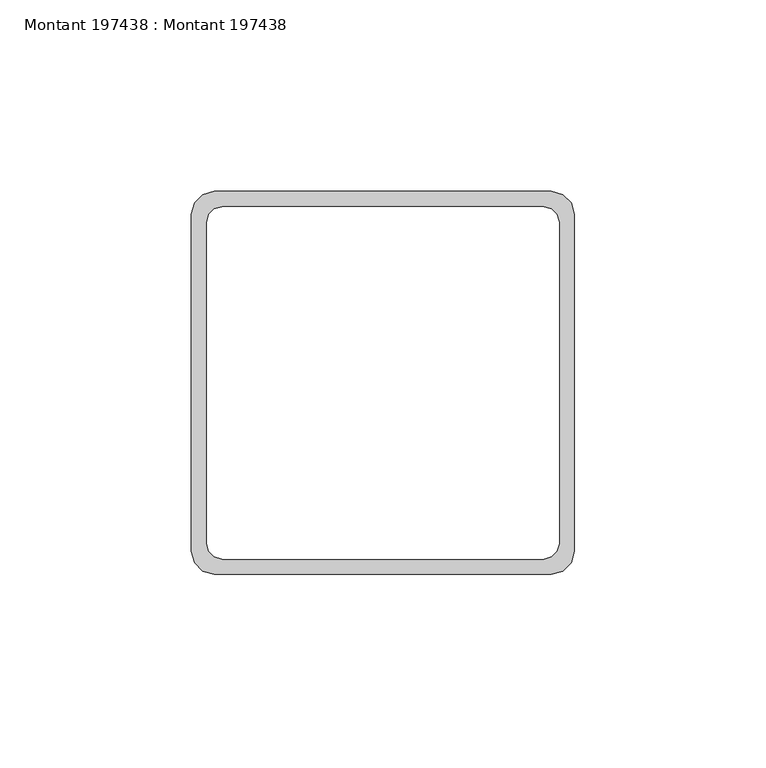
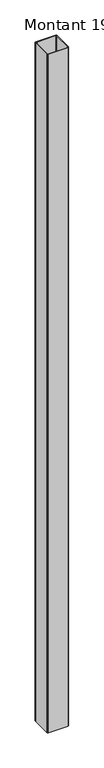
"""IFC4 building model written with IfcOpenShell, lengths in millimetres: beam geometry, Montant 197438 : Montant 197438."""

import ifcopenshell
import ifcopenshell.guid

model = None  # the IFC model being written
_history = None  # IfcOwnerHistory: only IFC2X3 demands one
_inside = {}  # id of a spatial element -> (the spatial element, [elements in it])
_under = {}  # id of a project, library or spatial element -> (it, [spatial elements below it])
_declared = {}  # id of a project -> (the project, [libraries it declares])
_typed = {}  # id of a type object -> (the type object, [elements of that type])
_made_of = {}  # id of a material, layer set ... -> (it, [elements and type objects made of it])


def new_model(schema):
    """Start an empty IFC model of exactly this schema.

    Asked for "IFC4X3", IfcOpenShell would pick the latest addendum, in which some entities
    have other attributes; the version numbers below select the first issue.
    IFC2X3 requires an IfcOwnerHistory on every rooted entity: one is made here for all.
    """
    global model, _history
    if schema == "IFC4X3":
        model = ifcopenshell.file(schema_version=(4, 3, 0, 0))
    else:
        model = ifcopenshell.file(schema=schema)
    _inside.clear()
    _under.clear()
    _declared.clear()
    _typed.clear()
    _made_of.clear()
    _history = None
    if model.schema == "IFC2X3":
        org = make("IfcOrganization", Name="unknown")
        user = make(
            "IfcPersonAndOrganization",
            ThePerson=make("IfcPerson", FamilyName="unknown"),
            TheOrganization=org,
        )
        app = make(
            "IfcApplication",
            ApplicationDeveloper=org,
            Version="unknown",
            ApplicationFullName="unknown",
            ApplicationIdentifier="unknown",
        )
        _history = make(
            "IfcOwnerHistory",
            OwningUser=user,
            OwningApplication=app,
            ChangeAction="ADDED",
            CreationDate=0,
        )
    return model


def make(cls, **values):
    """One entity of the class cls with the attributes given. An attribute that is None is left unset."""
    return model.create_entity(
        cls, **{name: value for name, value in values.items() if value is not None}
    )


def rooted(cls, **values):
    """An entity with a GlobalId (a new one), such as an element, a storey or a relation."""
    return make(cls, GlobalId=ifcopenshell.guid.new(), OwnerHistory=_history, **values)


def si_unit(unit_type, name, prefix=None):
    """IfcSIUnit, for example si_unit("LENGTHUNIT", "METRE", prefix="MILLI")."""
    return make("IfcSIUnit", UnitType=unit_type, Prefix=prefix, Name=name)


def assignment(units):
    """IfcUnitAssignment: the units of a project."""
    return None if units is None else make("IfcUnitAssignment", Units=units)


def point(xyz):
    """IfcCartesianPoint."""
    return None if xyz is None else make("IfcCartesianPoint", Coordinates=xyz)


def direction(xyz):
    """IfcDirection."""
    return None if xyz is None else make("IfcDirection", DirectionRatios=xyz)


def frame(location, z_axis=None, x_axis=None):
    """IfcAxis2Placement3D, a coordinate frame: its origin and axes. An axis left out is left unset."""
    return make(
        "IfcAxis2Placement3D",
        Location=point(location),
        Axis=direction(z_axis),
        RefDirection=direction(x_axis),
    )


def origin():
    """The frame at (0, 0, 0) with its axes left unset."""
    return frame((0.0, 0.0, 0.0))


def place(relative_to, where):
    """IfcLocalPlacement: puts the frame where relative to a parent placement (None: the world)."""
    return make(
        "IfcLocalPlacement", PlacementRelTo=relative_to, RelativePlacement=where
    )


def context(
    kind, dimensions, precision=None, world=None, true_north=None, identifier=None
):
    """IfcGeometricRepresentationContext, for example the 3D "Model" context."""
    return make(
        "IfcGeometricRepresentationContext",
        ContextIdentifier=identifier,
        ContextType=kind,
        CoordinateSpaceDimension=dimensions,
        Precision=precision,
        WorldCoordinateSystem=world,
        TrueNorth=true_north,
    )


def project(units=None, contexts=None):
    """IfcProject with its units and contexts."""
    return rooted(
        "IfcProject",
        Name="project",
        RepresentationContexts=contexts,
        UnitsInContext=assignment(units),
    )


def spatial(cls, under=None, at=None, **own):
    """A site, building, storey or space (cls), placed at a placement, below another one or the project."""
    s = rooted(cls, ObjectPlacement=at, **own)
    if under is not None:
        _under.setdefault(under.id(), (under, []))[1].append(s)
    return s


def polyline(points):
    """IfcPolyline through the points."""
    return make("IfcPolyline", Points=[point(p) for p in points])


def outline(outer, holes=None, kind="AREA"):
    """IfcArbitraryClosedProfileDef: a profile drawn as a closed curve; with holes, ...WithVoids."""
    if holes is None:
        return make("IfcArbitraryClosedProfileDef", ProfileType=kind, OuterCurve=outer)
    return make(
        "IfcArbitraryProfileDefWithVoids",
        ProfileType=kind,
        OuterCurve=outer,
        InnerCurves=holes,
    )


def extrude(swept, where, along, depth):
    """IfcExtrudedAreaSolid: the profile swept, set in the frame where, extruded along a direction by depth."""
    return make(
        "IfcExtrudedAreaSolid",
        SweptArea=swept,
        Position=where,
        ExtrudedDirection=direction(along),
        Depth=depth,
    )


def shape(context_of_items, identifier, shape_type, items):
    """IfcShapeRepresentation: the items that make up one representation, for example the "Body"."""
    return make(
        "IfcShapeRepresentation",
        ContextOfItems=context_of_items,
        RepresentationIdentifier=identifier,
        RepresentationType=shape_type,
        Items=items,
    )


def source(mapping_origin, context_of_items, identifier, shape_type, items):
    """IfcRepresentationMap: a shape defined once, which mapped items show again and again."""
    return make(
        "IfcRepresentationMap",
        MappingOrigin=mapping_origin,
        MappedRepresentation=shape(context_of_items, identifier, shape_type, items),
    )


def transform(
    local_origin,
    x_axis=None,
    y_axis=None,
    z_axis=None,
    scale=None,
    scale2=None,
    scale3=None,
    uniform=True,
):
    """IfcCartesianTransformationOperator3D, or its non-uniform kind. x_axis, y_axis, z_axis: its Axis1, 2, 3."""
    if uniform:
        return make(
            "IfcCartesianTransformationOperator3D",
            Axis1=direction(x_axis),
            Axis2=direction(y_axis),
            LocalOrigin=point(local_origin),
            Scale=scale,
            Axis3=direction(z_axis),
        )
    return make(
        "IfcCartesianTransformationOperator3DnonUniform",
        Axis1=direction(x_axis),
        Axis2=direction(y_axis),
        LocalOrigin=point(local_origin),
        Scale=scale,
        Axis3=direction(z_axis),
        Scale2=scale2,
        Scale3=scale3,
    )


def mapped(mapping_source, mapping_target):
    """IfcMappedItem: shows the shape of a source again, moved by a transform."""
    return make(
        "IfcMappedItem", MappingSource=mapping_source, MappingTarget=mapping_target
    )


def made_of(thing, what):
    """Note that an element or type object is made of a material, layer set ...; save() writes the relation."""
    if what is not None:
        _made_of.setdefault(what.id(), (what, []))[1].append(thing)
    return thing


def element(
    cls,
    number,
    at=None,
    inside=None,
    cuts=None,
    type_object=None,
    material=None,
    context=None,
    identifier="Body",
    shape_type=None,
    held_by="IfcProductDefinitionShape",
    body=None,
    shapes=None,
    **own,
):
    """One element of the class cls, such as IfcWall. Its Tag is "e" and its number.

    at: its placement. inside: the storey or other place that contains it. cuts: it is an
    opening in that element (IfcRelVoidsElement). A single representation is given by context,
    identifier, shape_type and body (its items); several are given by shapes. held_by: the class
    of the entity that holds the representations. save() writes the other relations.
    """
    e = rooted(cls, Tag="e%d" % number, ObjectPlacement=at, **own)
    if body is not None:
        shapes = [shape(context, identifier, shape_type, body)]
    if shapes is not None:
        e.Representation = make(held_by, Representations=shapes)
    if inside is not None:
        _inside.setdefault(inside.id(), (inside, []))[1].append(e)
    if cuts is not None:
        rooted(
            "IfcRelVoidsElement", RelatingBuildingElement=cuts, RelatedOpeningElement=e
        )
    if type_object is not None:
        _typed.setdefault(type_object.id(), (type_object, []))[1].append(e)
    return made_of(e, material)


def aggregate(whole, parts):
    """IfcRelAggregates: a whole, such as a stair, and the parts it consists of."""
    return rooted("IfcRelAggregates", RelatingObject=whole, RelatedObjects=parts)


def save(model, path):
    """Write the relations noted so far, then the file.

    IfcRelAggregates (storeys below a building ...), IfcRelContainedInSpatialStructure (elements
    in a storey), IfcRelDefinesByType, IfcRelAssociatesMaterial and IfcRelDeclares: one each for
    every whole, place, type object, material and project.
    """
    for whole, parts in _under.values():
        aggregate(whole, parts)
    for where, things in _inside.values():
        rooted(
            "IfcRelContainedInSpatialStructure",
            RelatedElements=things,
            RelatingStructure=where,
        )
    for kind, things in _typed.values():
        rooted("IfcRelDefinesByType", RelatedObjects=things, RelatingType=kind)
    for what, things in _made_of.values():
        rooted("IfcRelAssociatesMaterial", RelatedObjects=things, RelatingMaterial=what)
    for by, libraries in _declared.values():
        rooted("IfcRelDeclares", RelatingContext=by, RelatedDefinitions=libraries)
    model.write(path)


def montant_197438_montant_197438_63fdd01c(model_context):
    return source(origin(), model_context, "Body", "SweptSolid", [
        extrude(outline(polyline([(14845.9999999, -12733.5), (14842.9999999, -12732.6961524), (14840.8038474, -12730.5), (14839.9999999, -12727.5), (14839.9999999, -12639.5), (14840.8038474, -12636.5), (14842.9999999, -12634.3038476), (14845.9999999, -12633.5), (14933.9999999, -12633.5), (14936.9999999, -12634.3038476), (14939.1961523, -12636.5), (14939.9999999, -12639.5), (14939.9999999, -12727.5), (14939.1961523, -12730.5), (14936.9999999, -12732.6961524), (14933.9999999, -12733.5), (14845.9999999, -12733.5)]), holes=[polyline([(14931.9999999, -12729.5), (14933.9999999, -12728.9641016), (14935.4641015, -12727.5), (14935.9999999, -12725.5), (14935.9999999, -12641.5), (14935.4641015, -12639.5), (14933.9999999, -12638.0358984), (14931.9999999, -12637.5), (14847.9999999, -12637.5), (14845.9999999, -12638.0358984), (14844.5358983, -12639.5), (14843.9999999, -12641.5), (14843.9999999, -12725.5), (14844.5358983, -12727.5), (14845.9999999, -12728.9641016), (14847.9999999, -12729.5), (14931.9999999, -12729.5)])]), frame((0.0, 0.0, 8550.0), z_axis=(0.0, 0.0, 1.0), x_axis=(1.0, 0.0, 0.0)), (0.0, 0.0, 1.0), 3270.0),
    ])


if __name__ == "__main__":
    model = new_model("IFC4")
    model_context = context("Model", 3, world=origin())
    ifc_project = project(units=[si_unit("LENGTHUNIT", "METRE", prefix="MILLI")], contexts=[model_context])
    site = spatial("IfcSite", under=ifc_project)
    building = spatial("IfcBuilding", under=site)
    placement = place(None, origin())
    montant_197438_montant_197438_shape = montant_197438_montant_197438_63fdd01c(model_context)
    element("IfcBeam", 1, ObjectType="Montant 197438 : Montant 197438", at=placement, inside=building, context=model_context, shape_type="MappedRepresentation", body=[
        mapped(montant_197438_montant_197438_shape, transform((0.0, 0.0, 0.0), x_axis=(1.0, 0.0, 0.0), y_axis=(0.0, 1.0, 0.0), z_axis=(0.0, 0.0, 1.0))),
    ])
    save(model, "model.ifc")
